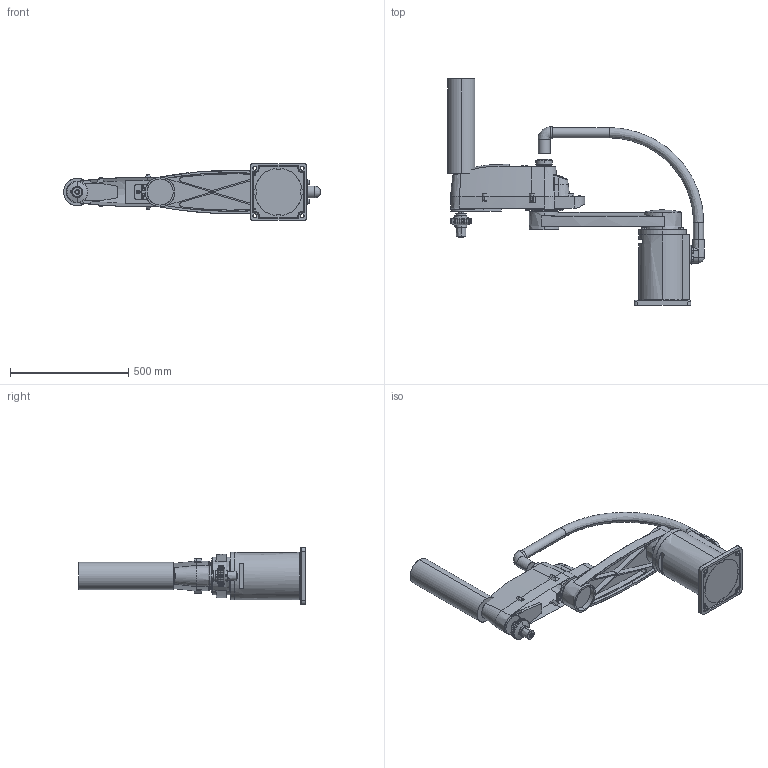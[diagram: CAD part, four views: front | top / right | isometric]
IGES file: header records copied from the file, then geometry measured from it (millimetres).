
Start section: SolidWorks IGES file using analytic representation for surfaces
Global section: file name: C:\Documents and Settings\Pc\Escritorio\Modelos 3D\Capítulo 1 (Estático)\PRACTICAS PROPUESTAS\P-2\Ensamblaje.IGS; native system: SolidWorks 2010; preprocessor: SolidWorks 2010; author: Pc; date: 100623.113005; units: millimetre
Bounding box: 1084.47 x 955 x 240 mm (x, y, z)
Surface area: 1582269.2 mm2 (no closed solid volume)
Topology: 0 solids, 0 shells, 755 faces, 11756 edges, 11740 vertices
Faces by surface type: revolution 414, bspline 341
